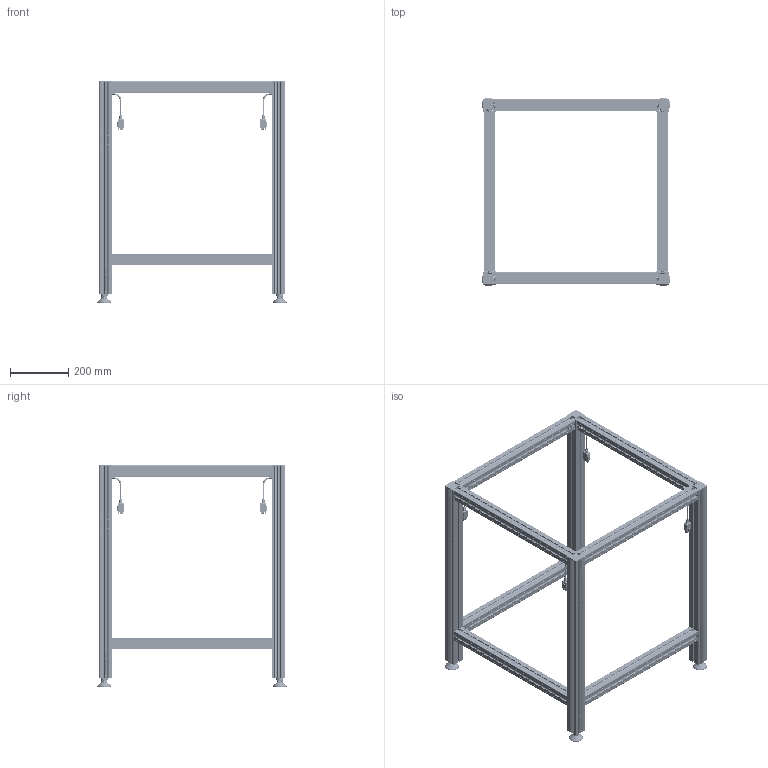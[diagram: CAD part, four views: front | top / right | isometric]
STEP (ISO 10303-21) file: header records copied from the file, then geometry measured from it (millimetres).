
FILE_DESCRIPTION(/* description */ ('Unknown'),/* implementation_level */ '2;1');
FILE_NAME(/* name */ 'Untergestell SQ.3 4340 595 XX XX_00-Eingefahren',/* time_stamp */ '2022-02-04T13:23:29+01:00',/* author */ ('Unknown'),/* organization */ ('Unknown'),/* preprocessor_version */ 'ST-DEVELOPER v18.1',/* originating_system */ 'Solid Edge',/* authorisation */ 'Unknown');
FILE_SCHEMA (('AUTOMOTIVE_DESIGN {1 0 10303 214 3 1 1}'));
Products named in the file (19): Untergestell SQ.3 4340 595 XX XX; 907.02004_oa_0; 142.00014; 119.00501; 122.00005; 142.00020; 123.00111; 125.00051; 128.00040; Kabel Molex; 907.02004_oa_1; 115.00100; 119.00190; 142.00210; 113.00006; 113.00006-ohne Mutter; Mutter M10; 907.02004_oa_2; 907.02004_oa_3
Assembly tree (76 placements, depth 3):
  Untergestell SQ.3 4340 595 XX XX
    907.02004_oa_0
      142.00014  x4
      119.00501
      122.00005
      142.00020  x4
      123.00111
      125.00051
      128.00040
      Kabel Molex
    907.02004_oa_1
      142.00014  x4
      119.00501
      122.00005
      142.00020  x4
      123.00111
      125.00051
      128.00040
      Kabel Molex
    115.00100  x7
      119.00190
      142.00210
    113.00006  x4
      113.00006-ohne Mutter
      Mutter M10
    907.02004_oa_2
      142.00014  x4
      119.00501
      122.00005
      142.00020  x4
      123.00111
      125.00051
      128.00040
      Kabel Molex
    907.02004_oa_3
      142.00014  x4
      119.00501
      122.00005
      142.00020  x4
      123.00111
      125.00051
      128.00040
      Kabel Molex
Bounding box: 651 x 651 x 763 mm (x, y, z)
Volume: 5443129.9 mm3; surface area: 3982832.7 mm2
Topology: 99 solids, 99 shells, 13892 faces, 39146 edges, 25572 vertices
Faces by surface type: plane 7616, cylinder 4786, bspline 700, cone 310, torus 306, sphere 174
Full cylindrical faces by diameter (mm): 2.5 x52, 3 x16, 4 x48, 5 x40, 6.647 x4, 7.8 x14, 8.376 x12, 9.5 x4, 10 x4, 11.3 x14, 11.5 x14, 12 x14, 12.2 x14, 13.5 x14, 15 x4, 17.3 x4, 18 x28, 18.1 x14, 19 x8, 20.8 x12, 21 x8, 25 x12, 29 x4, 30 x8, 35 x4, 39 x4, 47 x4
Entity records: 108350 total; most frequent: CARTESIAN_POINT 24772, ORIENTED_EDGE 17164, DIRECTION 15957, EDGE_CURVE 8582, VERTEX_POINT 5667, AXIS2_PLACEMENT_3D 5336, LINE 5285, VECTOR 5285
